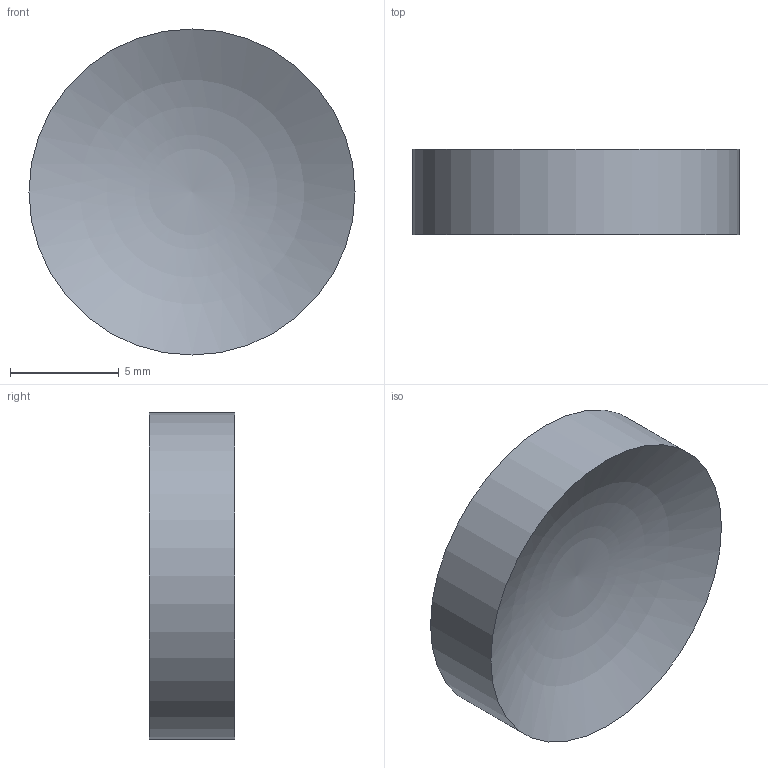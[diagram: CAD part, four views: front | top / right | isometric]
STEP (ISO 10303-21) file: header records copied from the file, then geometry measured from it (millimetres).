
FILE_DESCRIPTION((''),'2;1');
FILE_NAME('T:\Public\7_3次元データ\1図面ﾃﾞｰﾀ\7_素子\レンズ\3_球面平凹レンズ-BK7(SLB-N)\SLB-N\φ15\SLB-15-30N\SLB-15-30N.stp','2009-05-21T13:39:34',('okegawa'),(''),'Autodesk Inventor 2008','Autodesk Inventor 2008','');
FILE_SCHEMA(('AUTOMOTIVE_DESIGN { 1 0 10303 214 1 1 1 1 }'));
Length unit declared in the file: millimetre
Products named in the file (1): SLB-15-30N
Bounding box: 15 x 3.93 x 15 mm (x, y, z)
Volume: 519.8 mm3; surface area: 550.1 mm2
Topology: 1 solids, 1 shells, 3 faces, 3 edges, 2 vertices
Faces by surface type: bspline 1, cylinder 1, plane 1
Full cylindrical faces by diameter (mm): 15 x1
Entity records: 84 total; most frequent: CARTESIAN_POINT 16, DIRECTION 10, AXIS2_PLACEMENT_3D 5, ORIENTED_EDGE 4, EDGE_LOOP 4, FACE_OUTER_BOUND 3, ADVANCED_FACE 3, DIMENSIONAL_EXPONENTS 2
